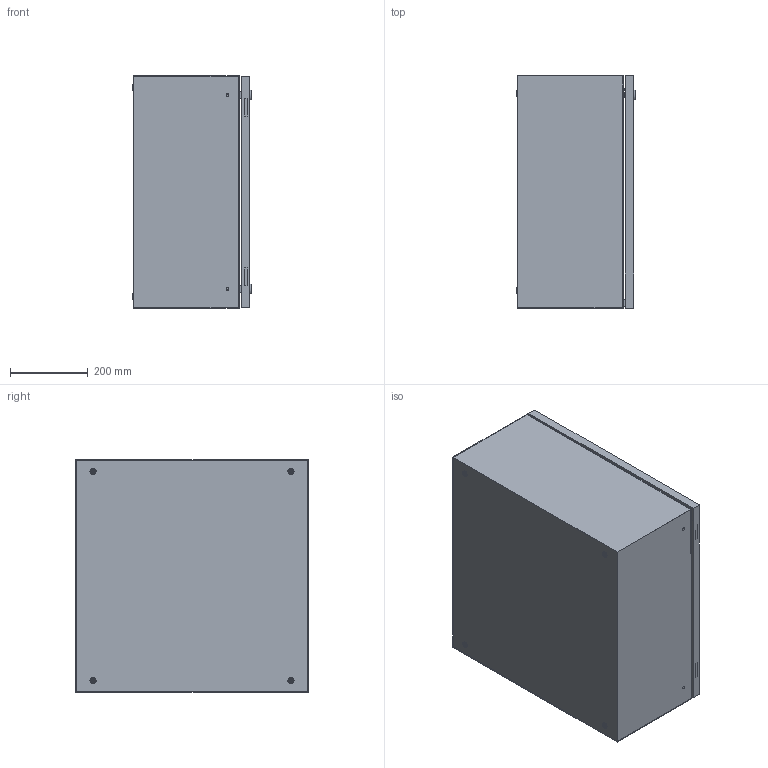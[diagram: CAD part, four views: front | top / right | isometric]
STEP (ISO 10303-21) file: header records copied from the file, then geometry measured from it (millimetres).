
FILE_DESCRIPTION(/* description */ ('Unknown'),/* implementation_level */ '2;1');
FILE_NAME(/* name */ 'CLA06006030',/* time_stamp */ '2024-09-03T11:34:02+02:00',/* author */ ('Unknown'),/* organization */ ('Unknown'),/* preprocessor_version */ 'ST-DEVELOPER v19.4',/* originating_system */ 'Solid Edge',/* authorisation */ 'Unknown');
FILE_SCHEMA (('AUTOMOTIVE_DESIGN {1 0 10303 214 3 1 1}'));
Length unit declared in the file: millimetre
Products named in the file (16): CLA06006030; C000X000.80_oa_0; C000X000.81_oa_1; C0000000.65; C0000000.78; AE00417.01; C0000000.02; AE00989.09; C000X000.39_oa_2; C0000000.22; C0000000.04; C0000000.05; AE00316.01; AE00601.01; AE00891.02; C0000000.01
Assembly tree (32 placements, depth 4):
  CLA06006030
    C000X000.80_oa_0
      C000X000.81_oa_1
        C0000000.65
        C0000000.78
        AE00417.01  x2
      C0000000.02  x2
      AE00989.09  x2
    C000X000.39_oa_2
      C0000000.22
      C0000000.04  x4
      C0000000.05  x4
      AE00316.01  x2
      AE00601.01  x2
      AE00891.02  x2
      C0000000.01  x2
      AE00417.01  x4
Bounding box: 305 x 600 x 600 mm (x, y, z)
Volume: 3155736.1 mm3; surface area: 3043868 mm2
Topology: 31 solids, 31 shells, 632 faces, 1552 edges, 1010 vertices
Faces by surface type: plane 408, cylinder 162, cone 32, torus 30
Full cylindrical faces by diameter (mm): 4 x2, 4.917 x6, 4.918 x2, 5.4 x2, 6 x10, 6.4 x2, 7.5 x6, 8 x4, 8.376 x8, 10 x6, 10.25 x4, 11 x2, 13.6 x2, 14 x4, 15 x4, 16 x4, 16.3 x2, 19.5 x2, 28 x2
Entity records: 11516 total; most frequent: CARTESIAN_POINT 1773, DIRECTION 1718, ORIENTED_EDGE 1590, EDGE_CURVE 795, AXIS2_PLACEMENT_3D 573, LINE 572, VECTOR 572, VERTEX_POINT 543
